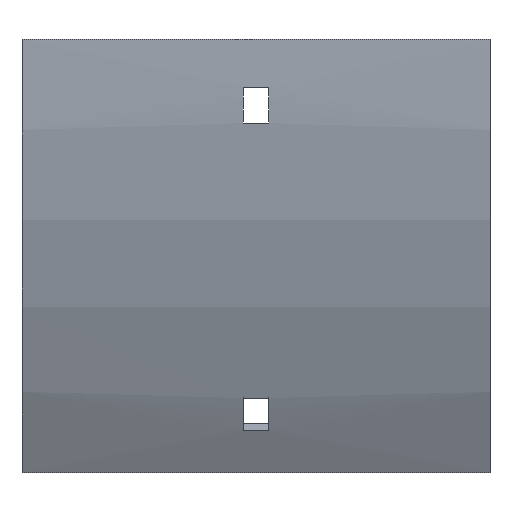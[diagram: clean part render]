
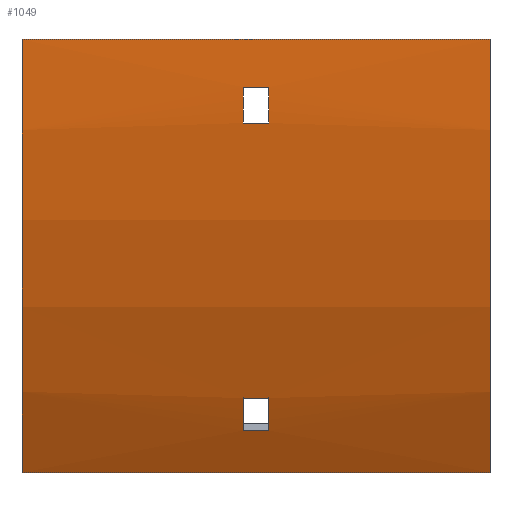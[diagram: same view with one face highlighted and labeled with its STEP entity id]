
A CAD part, front view. The second image highlights one B-rep face of the part: STEP entity #1049.
In plain terms, the highlighted cylindrical face has radius 217.5 mm (diameter 435 mm), a partial arc.
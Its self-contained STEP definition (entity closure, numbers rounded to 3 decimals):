
#27 = EDGE_LOOP ( 'NONE', ( #1446, #1539, #173, #1253 ) ) ;
#38 = CARTESIAN_POINT ( 'NONE',  ( 58.75, -88.361, -108.75 ) ) ;
#44 = EDGE_LOOP ( 'NONE', ( #1690, #308, #1679, #1210 ) ) ;
#57 = AXIS2_PLACEMENT_3D ( 'NONE', #757, #873, #217 ) ;
#73 = VERTEX_POINT ( 'NONE', #905 ) ;
#79 = CIRCLE ( 'NONE', #1259, 217.5 ) ;
#146 = VECTOR ( 'NONE', #1414, 1000. ) ;
#150 = DIRECTION ( 'NONE',  ( 0., 0., -1. ) ) ;
#151 = CARTESIAN_POINT ( 'NONE',  ( -3.25, -116.484, -21. ) ) ;
#170 = CARTESIAN_POINT ( 'NONE',  ( 3.25, -97.98, -90.055 ) ) ;
#173 = ORIENTED_EDGE ( 'NONE', *, *, #702, .F. ) ;
#187 = VERTEX_POINT ( 'NONE', #151 ) ;
#197 = CIRCLE ( 'NONE', #1227, 217.5 ) ;
#205 = CIRCLE ( 'NONE', #654, 217.5 ) ;
#217 = DIRECTION ( 'NONE',  ( 0., 0., 1. ) ) ;
#227 = FACE_BOUND ( 'NONE', #27, .T. ) ;
#230 = VECTOR ( 'NONE', #415, 1000. ) ;
#238 = LINE ( 'NONE', #902, #146 ) ;
#265 = CARTESIAN_POINT ( 'NONE',  ( 3.25, 100., 0. ) ) ;
#304 = EDGE_CURVE ( 'NONE', #187, #73, #79, .T. ) ;
#308 = ORIENTED_EDGE ( 'NONE', *, *, #504, .F. ) ;
#314 = DIRECTION ( 'NONE',  ( 1., 0., 0. ) ) ;
#315 = VERTEX_POINT ( 'NONE', #472 ) ;
#355 = FACE_BOUND ( 'NONE', #1086, .T. ) ;
#371 = VECTOR ( 'NONE', #546, 1000. ) ;
#377 = EDGE_CURVE ( 'NONE', #1491, #1240, #197, .T. ) ;
#380 = CARTESIAN_POINT ( 'NONE',  ( -3.25, -94.074, -98.192 ) ) ;
#413 = LINE ( 'NONE', #909, #371 ) ;
#415 = DIRECTION ( 'NONE',  ( 1., 0., 0. ) ) ;
#472 = CARTESIAN_POINT ( 'NONE',  ( 3.25, -117.169, -12. ) ) ;
#484 = DIRECTION ( 'NONE',  ( 1., 0., 0. ) ) ;
#504 = EDGE_CURVE ( 'NONE', #1240, #708, #979, .T. ) ;
#513 = CARTESIAN_POINT ( 'NONE',  ( -3.25, 100., 0. ) ) ;
#538 = DIRECTION ( 'NONE',  ( 0., 0., 1. ) ) ;
#546 = DIRECTION ( 'NONE',  ( -1., 0., 0. ) ) ;
#601 = VECTOR ( 'NONE', #1263, 1000. ) ;
#610 = CARTESIAN_POINT ( 'NONE',  ( 3.25, -116.484, -21. ) ) ;
#634 = ORIENTED_EDGE ( 'NONE', *, *, #304, .T. ) ;
#654 = AXIS2_PLACEMENT_3D ( 'NONE', #865, #484, #1143 ) ;
#664 = CARTESIAN_POINT ( 'NONE',  ( 58.75, -97.98, -90.055 ) ) ;
#676 = CARTESIAN_POINT ( 'NONE',  ( -58.75, -117.5, 0. ) ) ;
#702 = EDGE_CURVE ( 'NONE', #1138, #1602, #1426, .T. ) ;
#704 = EDGE_CURVE ( 'NONE', #1491, #1438, #413, .T. ) ;
#708 = VERTEX_POINT ( 'NONE', #1296 ) ;
#738 = DIRECTION ( 'NONE',  ( 0., 0., 1. ) ) ;
#757 = CARTESIAN_POINT ( 'NONE',  ( 58.75, 100., 0. ) ) ;
#795 = CARTESIAN_POINT ( 'NONE',  ( 3.25, -94.074, -98.192 ) ) ;
#803 = DIRECTION ( 'NONE',  ( -1., 0., 0. ) ) ;
#820 = ORIENTED_EDGE ( 'NONE', *, *, #981, .T. ) ;
#855 = VERTEX_POINT ( 'NONE', #610 ) ;
#860 = ORIENTED_EDGE ( 'NONE', *, *, #989, .T. ) ;
#865 = CARTESIAN_POINT ( 'NONE',  ( 3.25, 100., 0. ) ) ;
#873 = DIRECTION ( 'NONE',  ( -1., 0., 0. ) ) ;
#881 = FACE_OUTER_BOUND ( 'NONE', #44, .T. ) ;
#885 = CARTESIAN_POINT ( 'NONE',  ( -58.75, 100., 0. ) ) ;
#887 = EDGE_CURVE ( 'NONE', #73, #315, #1571, .T. ) ;
#902 = CARTESIAN_POINT ( 'NONE',  ( 58.75, -116.484, -21. ) ) ;
#905 = CARTESIAN_POINT ( 'NONE',  ( -3.25, -117.169, -12. ) ) ;
#909 = CARTESIAN_POINT ( 'NONE',  ( 58.75, -117.5, 0. ) ) ;
#917 = EDGE_CURVE ( 'NONE', #1598, #972, #949, .T. ) ;
#945 = DIRECTION ( 'NONE',  ( 0., 0., -1. ) ) ;
#948 = CARTESIAN_POINT ( 'NONE',  ( -3.25, -97.98, -90.055 ) ) ;
#949 = CIRCLE ( 'NONE', #1528, 217.5 ) ;
#972 = VERTEX_POINT ( 'NONE', #380 ) ;
#979 = LINE ( 'NONE', #38, #1120 ) ;
#981 = EDGE_CURVE ( 'NONE', #315, #855, #205, .T. ) ;
#986 = EDGE_CURVE ( 'NONE', #972, #1138, #1404, .T. ) ;
#989 = EDGE_CURVE ( 'NONE', #855, #187, #238, .T. ) ;
#997 = CARTESIAN_POINT ( 'NONE',  ( 58.75, -88.361, -108.75 ) ) ;
#1029 = DIRECTION ( 'NONE',  ( -1., 0., 0. ) ) ;
#1049 = ADVANCED_FACE ( 'NONE', ( #881, #355, #227 ), #1523, .T. ) ;
#1086 = EDGE_LOOP ( 'NONE', ( #860, #634, #1574, #820 ) ) ;
#1089 = CARTESIAN_POINT ( 'NONE',  ( 58.75, -117.5, 0. ) ) ;
#1100 = AXIS2_PLACEMENT_3D ( 'NONE', #265, #1328, #538 ) ;
#1120 = VECTOR ( 'NONE', #1588, 1000. ) ;
#1138 = VERTEX_POINT ( 'NONE', #795 ) ;
#1143 = DIRECTION ( 'NONE',  ( 0., 0., -1. ) ) ;
#1152 = DIRECTION ( 'NONE',  ( 1., 0., 0. ) ) ;
#1209 = CARTESIAN_POINT ( 'NONE',  ( 58.75, 100., 0. ) ) ;
#1210 = ORIENTED_EDGE ( 'NONE', *, *, #704, .T. ) ;
#1227 = AXIS2_PLACEMENT_3D ( 'NONE', #1209, #314, #1349 ) ;
#1240 = VERTEX_POINT ( 'NONE', #997 ) ;
#1253 = ORIENTED_EDGE ( 'NONE', *, *, #986, .F. ) ;
#1259 = AXIS2_PLACEMENT_3D ( 'NONE', #513, #1029, #738 ) ;
#1263 = DIRECTION ( 'NONE',  ( 1., 0., 0. ) ) ;
#1296 = CARTESIAN_POINT ( 'NONE',  ( -58.75, -88.361, -108.75 ) ) ;
#1313 = CARTESIAN_POINT ( 'NONE',  ( -3.25, 100., 0. ) ) ;
#1318 = VECTOR ( 'NONE', #803, 1000. ) ;
#1328 = DIRECTION ( 'NONE',  ( -1., 0., 0. ) ) ;
#1349 = DIRECTION ( 'NONE',  ( 0., 0., -1. ) ) ;
#1350 = EDGE_CURVE ( 'NONE', #1438, #708, #1470, .T. ) ;
#1382 = EDGE_CURVE ( 'NONE', #1602, #1598, #1582, .T. ) ;
#1389 = AXIS2_PLACEMENT_3D ( 'NONE', #885, #1395, #945 ) ;
#1395 = DIRECTION ( 'NONE',  ( 1., 0., 0. ) ) ;
#1404 = LINE ( 'NONE', #1508, #601 ) ;
#1414 = DIRECTION ( 'NONE',  ( -1., 0., 0. ) ) ;
#1426 = CIRCLE ( 'NONE', #1100, 217.5 ) ;
#1428 = CARTESIAN_POINT ( 'NONE',  ( 58.75, -117.169, -12. ) ) ;
#1438 = VERTEX_POINT ( 'NONE', #676 ) ;
#1446 = ORIENTED_EDGE ( 'NONE', *, *, #917, .F. ) ;
#1470 = CIRCLE ( 'NONE', #1389, 217.5 ) ;
#1491 = VERTEX_POINT ( 'NONE', #1089 ) ;
#1508 = CARTESIAN_POINT ( 'NONE',  ( 58.75, -94.074, -98.192 ) ) ;
#1523 = CYLINDRICAL_SURFACE ( 'NONE', #57, 217.5 ) ;
#1528 = AXIS2_PLACEMENT_3D ( 'NONE', #1313, #1152, #150 ) ;
#1539 = ORIENTED_EDGE ( 'NONE', *, *, #1382, .F. ) ;
#1571 = LINE ( 'NONE', #1428, #230 ) ;
#1574 = ORIENTED_EDGE ( 'NONE', *, *, #887, .T. ) ;
#1582 = LINE ( 'NONE', #664, #1318 ) ;
#1588 = DIRECTION ( 'NONE',  ( -1., 0., 0. ) ) ;
#1598 = VERTEX_POINT ( 'NONE', #948 ) ;
#1602 = VERTEX_POINT ( 'NONE', #170 ) ;
#1679 = ORIENTED_EDGE ( 'NONE', *, *, #377, .F. ) ;
#1690 = ORIENTED_EDGE ( 'NONE', *, *, #1350, .T. ) ;
